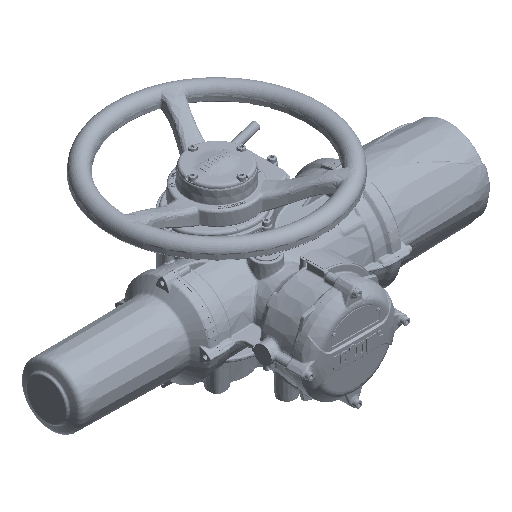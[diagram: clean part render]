
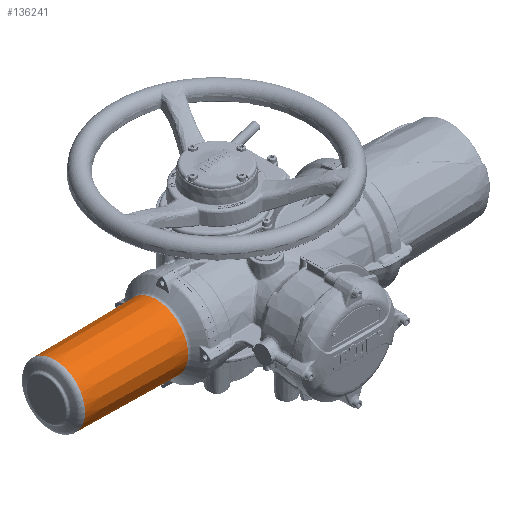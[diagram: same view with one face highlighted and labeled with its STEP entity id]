
A CAD part, isometric view. The second image highlights one B-rep face of the part: STEP entity #136241.
In plain terms, the highlighted conical face has half-angle 0.75 degrees and reference radius 65.5 mm.
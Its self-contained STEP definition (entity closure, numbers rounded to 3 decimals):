
#5036=CONICAL_SURFACE('',#144557,65.5,0.013);
#17651=B_SPLINE_CURVE_WITH_KNOTS('',3,(#247839,#247840,#247841,#247842,
#247843,#247844,#247845,#247846,#247847,#247848,#247849,#247850,#247851,
#247852,#247853,#247854,#247855,#247856,#247857,#247858,#247859,#247860,
#247861,#247862,#247863,#247864,#247865,#247866,#247867,#247868),
 .UNSPECIFIED.,.T.,.F.,(1,1,1,1,1,1,1,1,1,1,1,1,1,1,1,1,1,1,1,1,1,1,1,1,
1,1,1,1,1,1,1,1,1,1),(-0.016,-0.013,-0.006,
0.,0.003,0.006,0.01,0.013,
0.016,0.019,0.022,0.026,
0.029,0.032,0.035,0.038,
0.042,0.045,0.051,0.058,
0.064,0.067,0.07,0.074,
0.077,0.08,0.083,0.086,
0.09,0.096,0.102,0.106,
0.109,0.112),.UNSPECIFIED.);
#42541=ORIENTED_EDGE('',*,*,#59532,.T.);
#42542=ORIENTED_EDGE('',*,*,#59535,.T.);
#42543=ORIENTED_EDGE('',*,*,#59536,.F.);
#59532=EDGE_CURVE('',#69317,#69317,#74732,.F.);
#59535=EDGE_CURVE('',#69318,#69318,#17651,.T.);
#59536=EDGE_CURVE('',#69319,#69319,#74735,.T.);
#69317=VERTEX_POINT('',#247709);
#69318=VERTEX_POINT('',#247869);
#69319=VERTEX_POINT('',#247871);
#74732=CIRCLE('',#144554,65.464);
#74735=CIRCLE('',#144558,62.731);
#80757=EDGE_LOOP('',(#42541));
#80758=EDGE_LOOP('',(#42542));
#80759=EDGE_LOOP('',(#42543));
#87348=FACE_BOUND('',#80757,.T.);
#87349=FACE_BOUND('',#80758,.T.);
#87350=FACE_BOUND('',#80759,.T.);
#136241=ADVANCED_FACE('',(#87348,#87349,#87350),#5036,.T.);
#144554=AXIS2_PLACEMENT_3D('',#247708,#163344,#163345);
#144557=AXIS2_PLACEMENT_3D('',#247838,#163350,#163351);
#144558=AXIS2_PLACEMENT_3D('',#247870,#163352,#163353);
#163344=DIRECTION('',(1.,0.,0.));
#163345=DIRECTION('',(0.,0.,-1.));
#163350=DIRECTION('',(1.,0.,0.));
#163351=DIRECTION('',(0.,0.,-1.));
#163352=DIRECTION('',(-1.,0.,0.));
#163353=DIRECTION('',(0.,0.,1.));
#247708=CARTESIAN_POINT('',(-184.607,-60.,0.));
#247709=CARTESIAN_POINT('',(-184.607,-60.,-65.464));
#247838=CARTESIAN_POINT('',(-181.857,-60.,0.));
#247839=CARTESIAN_POINT('',(-261.185,-51.356,-63.957));
#247840=CARTESIAN_POINT('',(-265.153,-47.6,-63.222));
#247841=CARTESIAN_POINT('',(-268.938,-45.634,-62.74));
#247842=CARTESIAN_POINT('',(-272.024,-44.68,-62.47));
#247843=CARTESIAN_POINT('',(-275.207,-44.28,-62.326));
#247844=CARTESIAN_POINT('',(-278.455,-44.439,-62.323));
#247845=CARTESIAN_POINT('',(-281.574,-45.145,-62.455));
#247846=CARTESIAN_POINT('',(-284.565,-46.412,-62.706));
#247847=CARTESIAN_POINT('',(-287.218,-48.163,-63.03));
#247848=CARTESIAN_POINT('',(-289.536,-50.431,-63.388));
#247849=CARTESIAN_POINT('',(-291.318,-53.067,-63.712));
#247850=CARTESIAN_POINT('',(-292.536,-56.078,-63.957));
#247851=CARTESIAN_POINT('',(-293.057,-59.268,-64.067));
#247852=CARTESIAN_POINT('',(-292.86,-62.496,-64.025));
#247853=CARTESIAN_POINT('',(-291.946,-65.617,-63.836));
#247854=CARTESIAN_POINT('',(-289.876,-69.388,-63.44));
#247855=CARTESIAN_POINT('',(-285.928,-73.141,-62.81));
#247856=CARTESIAN_POINT('',(-279.883,-75.598,-62.296));
#247857=CARTESIAN_POINT('',(-274.446,-75.802,-62.317));
#247858=CARTESIAN_POINT('',(-270.242,-74.842,-62.61));
#247859=CARTESIAN_POINT('',(-267.3,-73.596,-62.936));
#247860=CARTESIAN_POINT('',(-264.607,-71.813,-63.335));
#247861=CARTESIAN_POINT('',(-262.339,-69.592,-63.745));
#247862=CARTESIAN_POINT('',(-260.523,-66.905,-64.121));
#247863=CARTESIAN_POINT('',(-259.331,-63.943,-64.39));
#247864=CARTESIAN_POINT('',(-258.799,-60.726,-64.516));
#247865=CARTESIAN_POINT('',(-259.068,-56.411,-64.452));
#247866=CARTESIAN_POINT('',(-261.185,-51.356,-63.957));
#247867=CARTESIAN_POINT('',(-265.153,-47.6,-63.222));
#247868=CARTESIAN_POINT('',(-268.938,-45.634,-62.74));
#247869=CARTESIAN_POINT('',(-266.15,-47.195,-63.111));
#247870=CARTESIAN_POINT('',(-393.347,-60.,0.));
#247871=CARTESIAN_POINT('',(-393.347,-60.,62.731));
